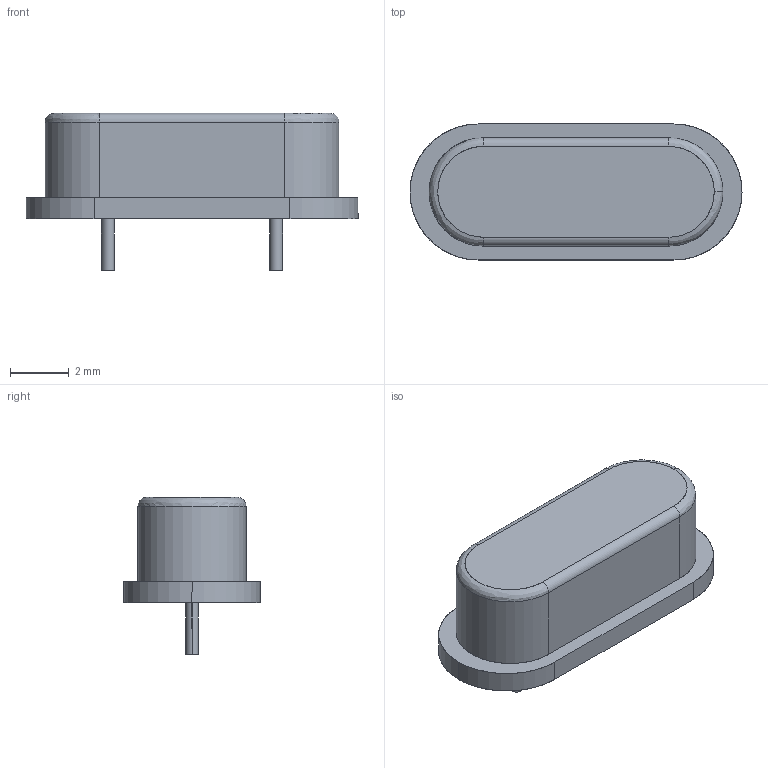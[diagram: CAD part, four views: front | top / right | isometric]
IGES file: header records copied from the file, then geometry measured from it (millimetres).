
Start section: SolidWorks IGES file using analytic representation for surfaces
Global section: file name: C:\Documents and Settings\SURA\Desktop\Crystal.IGS; native system: SolidWorks 2008; preprocessor: SolidWorks 2008; author: SURA; date: 120504.220837; units: centimetre
Bounding box: 11.35 x 4.65 x 5.38 mm (x, y, z)
Surface area: 188.2 mm2 (no closed solid volume)
Topology: 0 solids, 0 shells, 24 faces, 260 edges, 260 vertices
Faces by surface type: bspline 12, revolution 12
